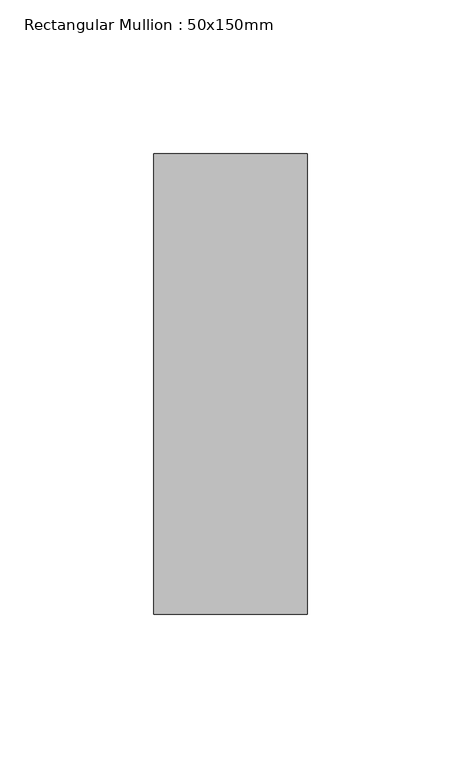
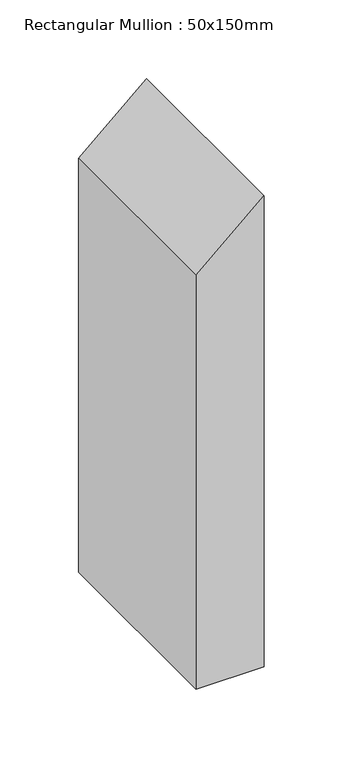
"""IFC4 building model written with IfcOpenShell, lengths in millimetres: member geometry, Rectangular Mullion : 50x150mm."""

from ifc_helpers import new_model, si_unit, frame, origin, place, context, project, spatial, polyline, outline, extrude, source, transform, mapped, element, save


def rectangular_mullion_50x150mm_de235075(model_context):
    return source(origin(), model_context, "Body", "SweptSolid", [
        extrude(outline(polyline([(0.0, 0.0), (-44.2362632, -50.0), (-366.1553567, -50.0), (-366.1553567, 0.0), (0.0, 0.0)])), frame((0.0, -75.0, 0.0), z_axis=(0.0, 1.0, 0.0), x_axis=(0.0, 0.0, 1.0)), (0.0, 0.0, 1.0), 150.0),
    ])


if __name__ == "__main__":
    model = new_model("IFC4")
    model_context = context("Model", 3, world=origin())
    ifc_project = project(units=[si_unit("LENGTHUNIT", "METRE", prefix="MILLI")], contexts=[model_context])
    site = spatial("IfcSite", under=ifc_project)
    building = spatial("IfcBuilding", under=site)
    placement = place(None, origin())
    rectangular_mullion_50x150mm_shape = rectangular_mullion_50x150mm_de235075(model_context)
    element("IfcMember", 1, ObjectType="Rectangular Mullion : 50x150mm", at=placement, inside=building, context=model_context, shape_type="MappedRepresentation", body=[
        mapped(rectangular_mullion_50x150mm_shape, transform((0.0, 0.0, 0.0), x_axis=(1.0, 0.0, 0.0), y_axis=(0.0, 1.0, 0.0), z_axis=(0.0, 0.0, 1.0))),
    ])
    save(model, "model.ifc")
